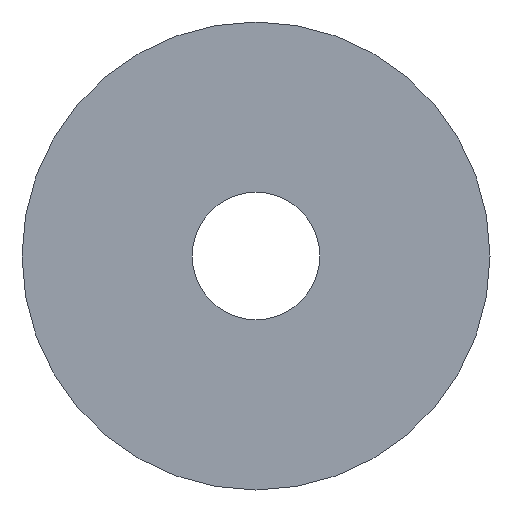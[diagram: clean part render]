
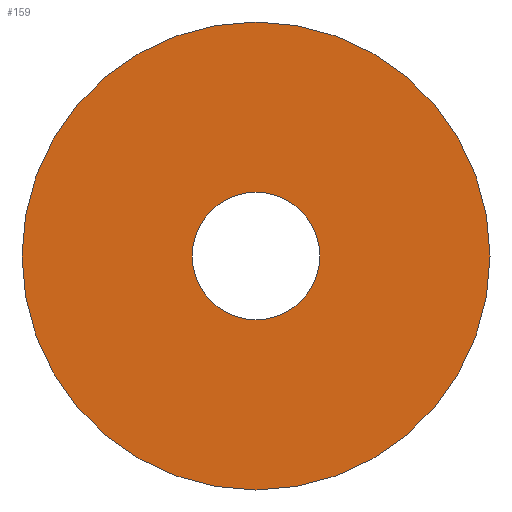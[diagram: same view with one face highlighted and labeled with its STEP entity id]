
A CAD part, front view. The second image highlights one B-rep face of the part: STEP entity #159.
In plain terms, the highlighted planar face has unit normal (0, -1, 0).
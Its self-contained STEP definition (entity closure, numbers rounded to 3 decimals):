
#24 = VERTEX_POINT('',#25);
#25 = CARTESIAN_POINT('',(44.,-28.,0.));
#32 = CYLINDRICAL_SURFACE('',#33,44.);
#33 = AXIS2_PLACEMENT_3D('',#34,#35,#36);
#34 = CARTESIAN_POINT('',(0.,0.,0.));
#35 = DIRECTION('',(-0.,1.,-0.));
#36 = DIRECTION('',(1.,0.,0.));
#51 = EDGE_CURVE('',#24,#24,#52,.T.);
#52 = SURFACE_CURVE('',#53,(#58,#65),.PCURVE_S1.);
#53 = CIRCLE('',#54,44.);
#54 = AXIS2_PLACEMENT_3D('',#55,#56,#57);
#55 = CARTESIAN_POINT('',(0.,-28.,0.));
#56 = DIRECTION('',(0.,-1.,0.));
#57 = DIRECTION('',(1.,0.,0.));
#58 = PCURVE('',#32,#59);
#59 = DEFINITIONAL_REPRESENTATION('',(#60),#64);
#60 = LINE('',#61,#62);
#61 = CARTESIAN_POINT('',(-0.,-28.));
#62 = VECTOR('',#63,1.);
#63 = DIRECTION('',(-1.,0.));
#64 = ( GEOMETRIC_REPRESENTATION_CONTEXT(2) 
PARAMETRIC_REPRESENTATION_CONTEXT() REPRESENTATION_CONTEXT('2D SPACE',''
  ) );
#65 = PCURVE('',#66,#71);
#66 = PLANE('',#67);
#67 = AXIS2_PLACEMENT_3D('',#68,#69,#70);
#68 = CARTESIAN_POINT('',(0.,-28.,0.)
  );
#69 = DIRECTION('',(-0.,-1.,-0.));
#70 = DIRECTION('',(0.,0.,-1.));
#71 = DEFINITIONAL_REPRESENTATION('',(#72),#76);
#72 = CIRCLE('',#73,44.);
#73 = AXIS2_PLACEMENT_2D('',#74,#75);
#74 = CARTESIAN_POINT('',(0.,0.));
#75 = DIRECTION('',(0.,1.));
#76 = ( GEOMETRIC_REPRESENTATION_CONTEXT(2) 
PARAMETRIC_REPRESENTATION_CONTEXT() REPRESENTATION_CONTEXT('2D SPACE',''
  ) );
#159 = ADVANCED_FACE('',(#160,#163),#66,.T.);
#160 = FACE_BOUND('',#161,.T.);
#161 = EDGE_LOOP('',(#162));
#162 = ORIENTED_EDGE('',*,*,#51,.T.);
#163 = FACE_BOUND('',#164,.T.);
#164 = EDGE_LOOP('',(#165));
#165 = ORIENTED_EDGE('',*,*,#166,.F.);
#166 = EDGE_CURVE('',#167,#167,#169,.T.);
#167 = VERTEX_POINT('',#168);
#168 = CARTESIAN_POINT('',(12.,-28.,0.));
#169 = SURFACE_CURVE('',#170,(#175,#182),.PCURVE_S1.);
#170 = CIRCLE('',#171,12.);
#171 = AXIS2_PLACEMENT_3D('',#172,#173,#174);
#172 = CARTESIAN_POINT('',(0.,-28.,0.));
#173 = DIRECTION('',(0.,-1.,0.));
#174 = DIRECTION('',(1.,0.,0.));
#175 = PCURVE('',#66,#176);
#176 = DEFINITIONAL_REPRESENTATION('',(#177),#181);
#177 = CIRCLE('',#178,12.);
#178 = AXIS2_PLACEMENT_2D('',#179,#180);
#179 = CARTESIAN_POINT('',(0.,0.));
#180 = DIRECTION('',(0.,1.));
#181 = ( GEOMETRIC_REPRESENTATION_CONTEXT(2) 
PARAMETRIC_REPRESENTATION_CONTEXT() REPRESENTATION_CONTEXT('2D SPACE',''
  ) );
#182 = PCURVE('',#183,#188);
#183 = CYLINDRICAL_SURFACE('',#184,12.);
#184 = AXIS2_PLACEMENT_3D('',#185,#186,#187);
#185 = CARTESIAN_POINT('',(0.,0.,0.));
#186 = DIRECTION('',(-0.,1.,-0.));
#187 = DIRECTION('',(1.,0.,0.));
#188 = DEFINITIONAL_REPRESENTATION('',(#189),#193);
#189 = LINE('',#190,#191);
#190 = CARTESIAN_POINT('',(-0.,-28.));
#191 = VECTOR('',#192,1.);
#192 = DIRECTION('',(-1.,0.));
#193 = ( GEOMETRIC_REPRESENTATION_CONTEXT(2) 
PARAMETRIC_REPRESENTATION_CONTEXT() REPRESENTATION_CONTEXT('2D SPACE',''
  ) );
